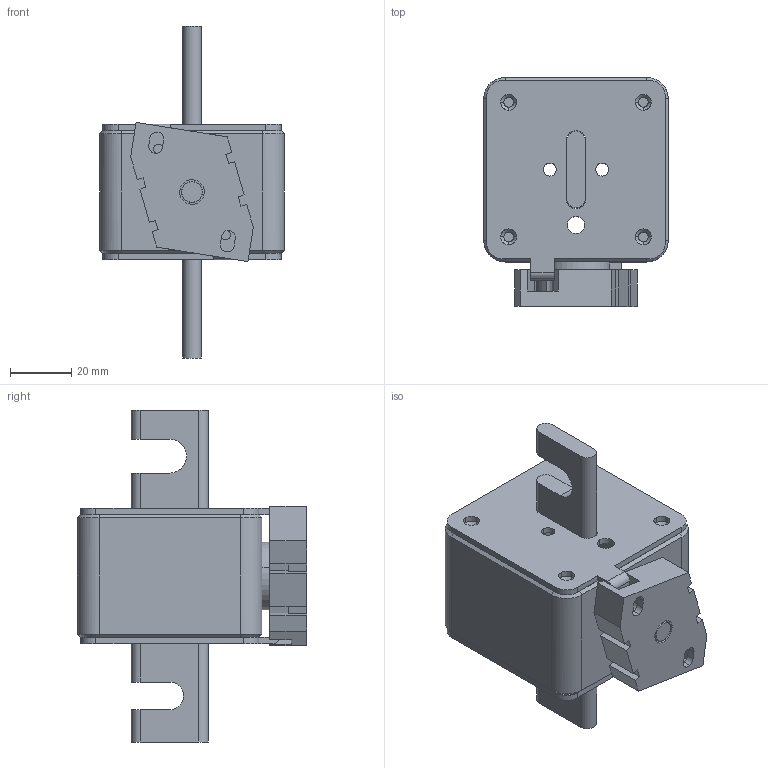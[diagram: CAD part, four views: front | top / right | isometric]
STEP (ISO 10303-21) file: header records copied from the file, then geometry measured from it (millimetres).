
FILE_DESCRIPTION (( 'STEP AP214' ), '1' );
FILE_NAME ('OptiFuse FR-S32_D08.STEP', '2024-02-28T11:31:05', ( '' ), ( '' ), 'SwSTEP 2.0', 'SolidWorks 2018', '' );
FILE_SCHEMA (( 'AUTOMOTIVE_DESIGN' ));
Length unit declared in the file: millimetre
Products named in the file (1): OptiFuse FR-S32_D08
Bounding box: 60 x 74.5 x 108 mm (x, y, z)
Volume: 102936.1 mm3; surface area: 46429.9 mm2
Topology: 8 solids, 8 shells, 336 faces, 842 edges, 542 vertices
Faces by surface type: plane 158, cylinder 128, cone 40, torus 10
Entity records: 14751 total; most frequent: CARTESIAN_POINT 2917, ORIENTED_EDGE 1684, DIRECTION 1600, EDGE_CURVE 842, AXIS2_PLACEMENT_3D 581, VERTEX_POINT 542, LINE 438, VECTOR 438
